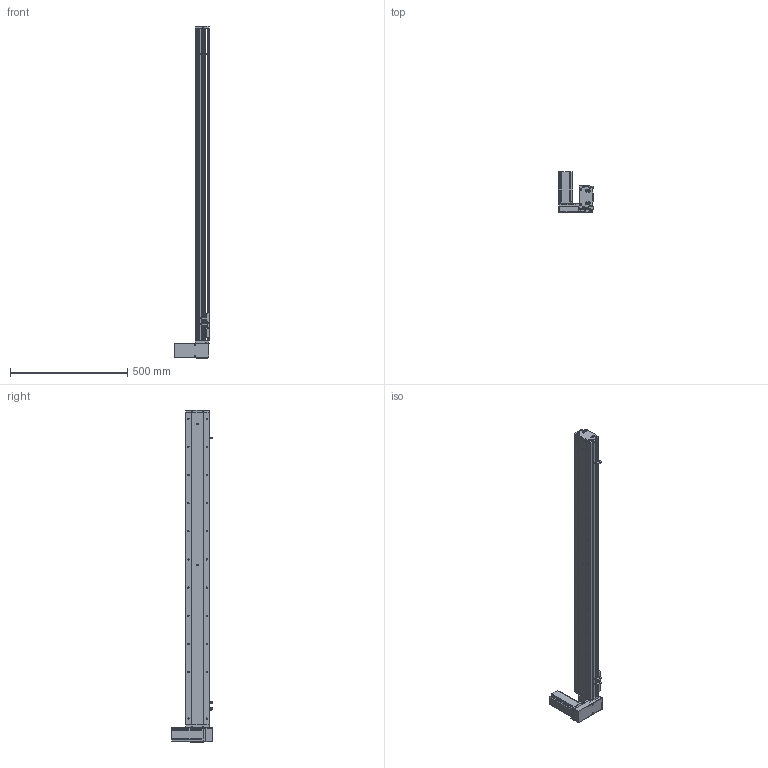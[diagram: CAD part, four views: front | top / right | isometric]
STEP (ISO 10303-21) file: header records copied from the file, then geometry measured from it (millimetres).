
FILE_DESCRIPTION (( 'STEP AP214' ), '1' );
FILE_NAME ('KSD100B-S1150-MRD-CM.STEP', '2019-11-11T08:08:59', ( '微软用户' ), ( '微软中国' ), 'SwSTEP 2.0', 'SolidWorks 2014', '' );
FILE_SCHEMA (( 'AUTOMOTIVE_DESIGN' ));
Length unit declared in the file: millimetre
Products named in the file (12): 悵誘欶奻狟殏; 100宽马达安装板连板上下折丝杆同步带; 台达ECMA－C20604AS伺服电机; U倰嫖萇EEㄜSX672; 覜茼え100遵圉猾敕; 100宽防尘板1150行程-同步带; 100宽马达安装板同步带右; 100宽同步带安装板半封闭; 100宽马达安装板同步带; 100遵傷啣肮祭湍; 100宽底板半封闭同步带1150行程; KSD100B-S1150-MRD-CM
Assembly tree (13 placements, depth 2):
  KSD100B-S1150-MRD-CM
    100宽底板半封闭同步带1150行程
    100遵傷啣肮祭湍
    100宽马达安装板同步带
    100宽同步带安装板半封闭
    100宽马达安装板同步带右
    100宽防尘板1150行程-同步带
    覜茼え100遵圉猾敕
    U倰嫖萇EEㄜSX672  x3
    台达ECMA－C20604AS伺服电机
    100宽马达安装板连板上下折丝杆同步带
    悵誘欶奻狟殏
Bounding box: 148 x 174.7 x 1415 mm (x, y, z)
Volume: 3145129 mm3; surface area: 1052397.5 mm2
Topology: 14 solids, 14 shells, 1503 faces, 4234 edges, 2687 vertices
Faces by surface type: cylinder 761, plane 595, cone 147
Entity records: 53727 total; most frequent: CARTESIAN_POINT 10782, DIRECTION 7354, ORIENTED_EDGE 7080, EDGE_CURVE 3540, AXIS2_PLACEMENT_3D 2693, VERTEX_POINT 2311, VECTOR 1968, LINE 1968
